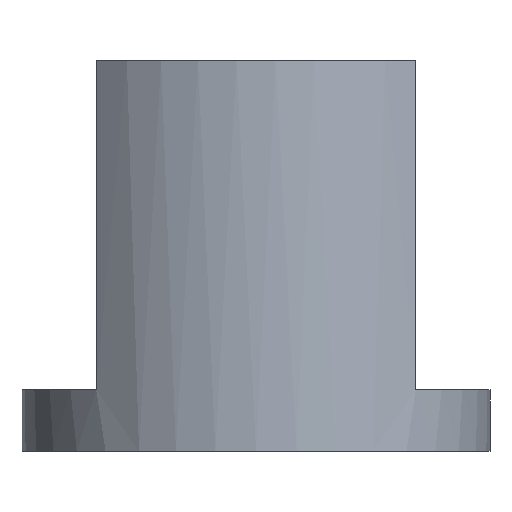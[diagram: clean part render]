
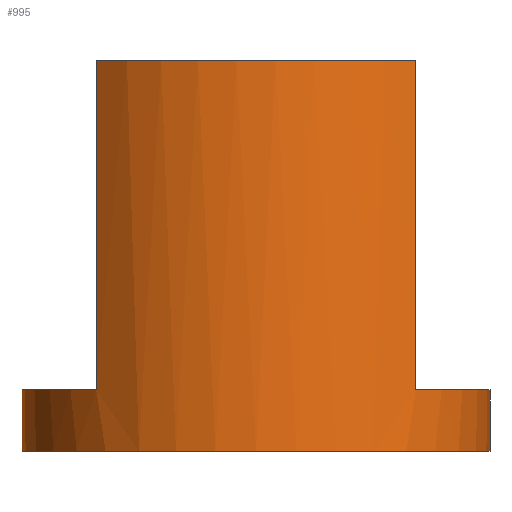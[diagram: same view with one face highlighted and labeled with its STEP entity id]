
A CAD part, front view. The second image highlights one B-rep face of the part: STEP entity #995.
In plain terms, the highlighted cylindrical face has radius 9.207 mm (diameter 18.415 mm), a partial arc.
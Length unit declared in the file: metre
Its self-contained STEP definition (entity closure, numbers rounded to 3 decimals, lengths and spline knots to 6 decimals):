
#32=CYLINDRICAL_SURFACE('',#1091,0.009208);
#73=CIRCLE('',#1023,0.009208);
#78=CIRCLE('',#1029,0.009208);
#84=CIRCLE('',#1042,0.009208);
#89=CIRCLE('',#1052,0.009208);
#326=ORIENTED_EDGE('',*,*,#486,.F.);
#327=ORIENTED_EDGE('',*,*,#553,.T.);
#328=ORIENTED_EDGE('',*,*,#463,.T.);
#329=ORIENTED_EDGE('',*,*,#557,.F.);
#330=ORIENTED_EDGE('',*,*,#423,.F.);
#331=ORIENTED_EDGE('',*,*,#520,.T.);
#332=ORIENTED_EDGE('',*,*,#438,.T.);
#333=ORIENTED_EDGE('',*,*,#556,.F.);
#423=EDGE_CURVE('',#576,#577,#73,.T.);
#438=EDGE_CURVE('',#592,#591,#78,.T.);
#463=EDGE_CURVE('',#610,#609,#84,.T.);
#486=EDGE_CURVE('',#628,#629,#89,.T.);
#520=EDGE_CURVE('',#576,#592,#734,.T.);
#553=EDGE_CURVE('',#628,#610,#746,.T.);
#556=EDGE_CURVE('',#629,#591,#749,.T.);
#557=EDGE_CURVE('',#577,#609,#750,.T.);
#576=VERTEX_POINT('',#1365);
#577=VERTEX_POINT('',#1367);
#591=VERTEX_POINT('',#1408);
#592=VERTEX_POINT('',#1410);
#609=VERTEX_POINT('',#1458);
#610=VERTEX_POINT('',#1460);
#628=VERTEX_POINT('',#1511);
#629=VERTEX_POINT('',#1513);
#734=LINE('',#1652,#809);
#746=LINE('',#1812,#821);
#749=LINE('',#1817,#824);
#750=LINE('',#1819,#825);
#809=VECTOR('',#1257,1.);
#821=VECTOR('',#1305,1.);
#824=VECTOR('',#1312,1.);
#825=VECTOR('',#1315,1.);
#868=EDGE_LOOP('',(#326,#327,#328,#329,#330,#331,#332,#333));
#921=FACE_BOUND('',#868,.T.);
#995=ADVANCED_FACE('',(#921),#32,.T.);
#1023=AXIS2_PLACEMENT_3D('',#1366,#1115,#1116);
#1029=AXIS2_PLACEMENT_3D('',#1409,#1134,#1135);
#1042=AXIS2_PLACEMENT_3D('',#1459,#1179,#1180);
#1052=AXIS2_PLACEMENT_3D('',#1512,#1215,#1216);
#1091=AXIS2_PLACEMENT_3D('',#1821,#1318,#1319);
#1115=DIRECTION('',(0.,0.,1.));
#1116=DIRECTION('',(0.,1.,0.));
#1134=DIRECTION('',(0.,0.,-1.));
#1135=DIRECTION('',(0.,1.,0.));
#1179=DIRECTION('',(0.,0.,-1.));
#1180=DIRECTION('',(0.,1.,0.));
#1215=DIRECTION('',(0.,0.,-1.));
#1216=DIRECTION('',(0.,1.,0.));
#1257=DIRECTION('',(0.,0.,-1.));
#1305=DIRECTION('',(0.,0.,1.));
#1312=DIRECTION('',(0.,0.,1.));
#1315=DIRECTION('',(0.,0.,-1.));
#1318=DIRECTION('',(0.,0.,1.));
#1319=DIRECTION('',(0.,-1.,0.));
#1365=CARTESIAN_POINT('',(-0.006287,-0.030057,0.026441));
#1366=CARTESIAN_POINT('',(0.,-0.02333,0.026441));
#1367=CARTESIAN_POINT('',(0.006287,-0.030057,0.026441));
#1408=CARTESIAN_POINT('',(-0.009208,-0.02333,0.013487));
#1409=CARTESIAN_POINT('',(0.,-0.02333,0.013487));
#1410=CARTESIAN_POINT('',(-0.006287,-0.030057,0.013487));
#1458=CARTESIAN_POINT('',(0.006287,-0.030057,0.013487));
#1459=CARTESIAN_POINT('',(0.,-0.02333,0.013487));
#1460=CARTESIAN_POINT('',(0.009208,-0.02333,0.013487));
#1511=CARTESIAN_POINT('',(0.009208,-0.02333,0.011074));
#1512=CARTESIAN_POINT('',(0.,-0.02333,0.011074));
#1513=CARTESIAN_POINT('',(-0.009208,-0.02333,0.011074));
#1652=CARTESIAN_POINT('',(-0.006287,-0.030057,0.026441));
#1812=CARTESIAN_POINT('',(0.009208,-0.02333,0.011074));
#1817=CARTESIAN_POINT('',(-0.009208,-0.02333,0.011074));
#1819=CARTESIAN_POINT('',(0.006287,-0.030057,0.026441));
#1821=CARTESIAN_POINT('',(0.,-0.02333,0.011074));
